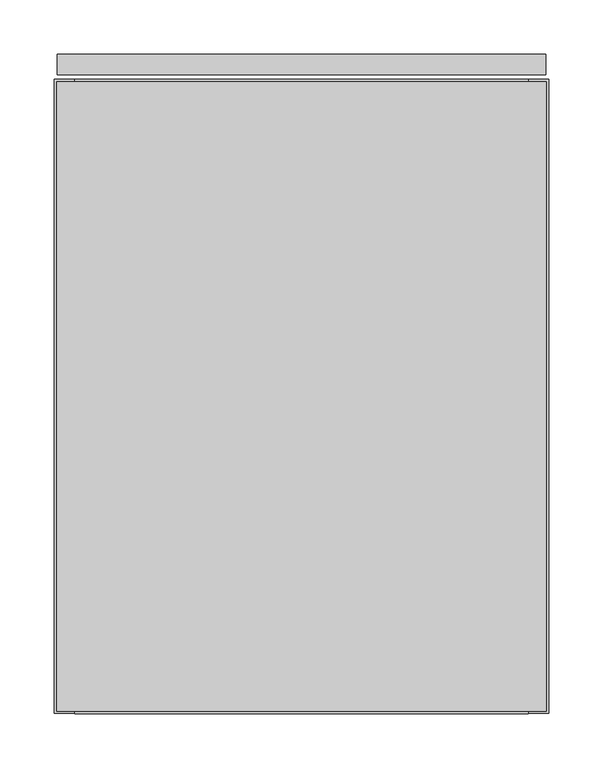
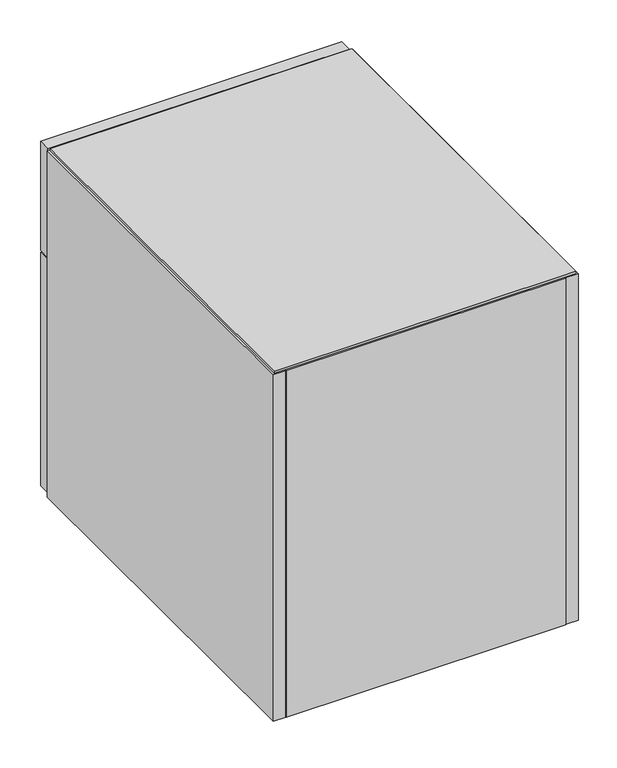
"""IFC4 building model written with IfcOpenShell, lengths in millimetres: furniture geometry, Geiger_GeigerOneCasegoods_LowStorage1Box1File : TFL 18Wx24Dx21.75H."""

from ifc_helpers import new_model, si_unit, point, frame, origin, place, context, project, spatial, polyline, circle_curve, ellipse_curve, trimmed, outline, extrude, source, transform, mapped, element, save
from ifc_brep_helpers import plane_surface, cylinder_surface, revolved_surface, advanced_brep


def furniture_d83d9811(model_context):
    return source(origin(), model_context, "Body", "SolidModel", [
        extrude(outline(polyline([(19.0, 19.5), (19.0, 586.4), (438.2, 586.4), (438.2, 19.5), (19.0, 19.5)])), frame((0.0, 0.0, 73.2), z_axis=(0.0, 0.0, 1.0), x_axis=(1.0, 0.0, 0.0)), (0.0, 0.0, 1.0), 19.5072),
        extrude(outline(polyline([(3.0, 590.4), (3.0, 609.6), (454.2, 609.6), (454.2, 590.4), (3.0, 590.4)])), frame((0.0, 0.0, 15.7), z_axis=(0.0, 0.0, 1.0), x_axis=(1.0, 0.0, 0.0)), (0.0, 0.0, 1.0), 370.0),
        extrude(outline(polyline([(3.0, 590.4), (3.0, 609.6), (454.2, 609.6), (454.2, 590.4), (3.0, 590.4)])), frame((0.0, 0.0, 388.7), z_axis=(0.0, 0.0, 1.0), x_axis=(1.0, 0.0, 0.0)), (0.0, 0.0, 1.0), 172.2),
        extrude(outline(polyline([(19.0, 19.5), (19.0, 566.9), (438.2, 566.9), (438.2, 19.5), (19.0, 19.5)])), frame((0.0, 0.0, 12.7), z_axis=(0.0, 0.0, 1.0), x_axis=(1.0, 0.0, 0.0)), (0.0, 0.0, 1.0), 19.5),
        extrude(outline(polyline([(454.66, 2.54), (2.54, 2.54), (2.54, 583.86), (454.66, 583.86), (454.66, 2.54)])), frame((0.0, 0.0, 561.7), z_axis=(0.0, 0.0, 1.0), x_axis=(1.0, 0.0, 0.0)), (0.0, 0.0, 1.0), 3.2766),
        extrude(outline(polyline([(19.0, 95.7), (19.0, 586.4), (438.2, 586.4), (438.2, 95.7), (19.0, 95.7)])), frame((0.0, 0.0, 542.2), z_axis=(0.0, 0.0, 1.0), x_axis=(1.0, 0.0, 0.0)), (0.0, 0.0, 1.0), 19.5),
        extrude(outline(polyline([(438.2, 19.5), (438.2, 0.0), (19.0, 0.0), (19.0, 19.5), (438.2, 19.5)])), frame((0.0, 0.0, 12.7), z_axis=(0.0, 0.0, 1.0), x_axis=(1.0, 0.0, 0.0)), (0.0, 0.0, 1.0), 549.0),
        extrude(outline(polyline([(19.0, 566.9), (19.0, 586.4), (438.2, 586.4), (438.2, 566.9), (19.0, 566.9)])), frame((0.0, 0.0, 12.7), z_axis=(0.0, 0.0, 1.0), x_axis=(1.0, 0.0, 0.0)), (0.0, 0.0, 1.0), 60.5),
        extrude(outline(polyline([(19.0, 586.4), (19.0, 0.5), (0.0, 0.5), (0.0, 586.4), (19.0, 586.4)])), frame((0.0, 0.0, 12.7), z_axis=(0.0, 0.0, 1.0), x_axis=(1.0, 0.0, 0.0)), (0.0, 0.0, 1.0), 549.0),
        extrude(outline(polyline([(457.2, 586.4), (457.2, 0.5), (438.2, 0.5), (438.2, 586.4), (457.2, 586.4)])), frame((0.0, 0.0, 12.7), z_axis=(0.0, 0.0, 1.0), x_axis=(1.0, 0.0, 0.0)), (0.0, 0.0, 1.0), 549.0),
        advanced_brep(
        [(94.0575663, 528.9165105, 0.0), (83.0, 528.9165105, 0.0), (71.9424337, 528.9165105, 0.0), (71.9424337, 528.9165105, 9.5), (94.0575663, 528.9165105, 9.5), (78.933545, 528.9165105, 9.5), (87.066455, 528.9165105, 9.5), (78.933545, 528.9165105, 12.7), (87.066455, 528.9165105, 12.7), (83.0, 528.9165105, 12.7)],
        [
            (0, 1),
            (1, 2),
            (2, 0, circle_curve(frame((83.0, 528.9165105, 0.0), z_axis=(0.0, 0.0, -1.0), x_axis=(-1.0, 0.0, 0.0)), 11.0575663)),
            (0, 2, circle_curve(frame((83.0, 528.9165105, 0.0), z_axis=(0.0, 0.0, -1.0), x_axis=(-1.0, 0.0, 0.0)), 11.0575663)),
            (2, 3, circle_curve(frame((71.9424337, 528.9165105, 4.75), z_axis=(0.0, 1.0, 0.0), x_axis=(-1.0, 0.0, 0.0)), 4.75)),
            (3, 4, circle_curve(frame((83.0, 528.9165105, 9.5), z_axis=(0.0, 0.0, -1.0), x_axis=(-1.0, 0.0, 0.0)), 11.0575663)),
            (4, 0, circle_curve(frame((94.0575663, 528.9165105, 4.75), z_axis=(0.0, 1.0, 0.0), x_axis=(1.0, 0.0, 0.0)), 4.75)),
            (4, 3, circle_curve(frame((83.0, 528.9165105, 9.5), z_axis=(0.0, 0.0, -1.0), x_axis=(-1.0, 0.0, 0.0)), 11.0575663)),
            (3, 5),
            (5, 6, circle_curve(frame((83.0, 528.9165105, 9.5), z_axis=(0.0, 0.0, -1.0), x_axis=(-1.0, 0.0, 0.0)), 4.066455)),
            (6, 4),
            (6, 5, circle_curve(frame((83.0, 528.9165105, 9.5), z_axis=(0.0, 0.0, -1.0), x_axis=(-1.0, 0.0, 0.0)), 4.066455)),
            (5, 7),
            (7, 8, circle_curve(frame((83.0, 528.9165105, 12.7), z_axis=(0.0, 0.0, -1.0), x_axis=(-1.0, 0.0, 0.0)), 4.066455)),
            (8, 6),
            (8, 7, circle_curve(frame((83.0, 528.9165105, 12.7), z_axis=(0.0, 0.0, -1.0), x_axis=(-1.0, 0.0, 0.0)), 4.066455)),
            (7, 9),
            (9, 8),
        ],
        [
            plane_surface(frame((83.0, 528.9165105, 0.0), z_axis=(0.0, 0.0, -1.0), x_axis=(-1.0, 0.0, 0.0))),
            revolved_surface(trimmed(ellipse_curve(frame((71.9424337, 528.9165105, 4.75), z_axis=(0.0, 1.0, 0.0), x_axis=(-1.0, 0.0, 0.0)), 4.75, 4.75), [point((71.9424337, 528.9165105, 0.0))], [point((71.9424337, 528.9165105, 9.5))], True, "CARTESIAN"), (83.0, 528.9165105, 0.0), (0.0, 0.0, 1.0)),
            plane_surface(frame((83.0, 528.9165105, 9.5), z_axis=(0.0, 0.0, 1.0), x_axis=(-1.0, 0.0, 0.0))),
            cylinder_surface(frame((83.0, 528.9165105, 0.0), z_axis=(0.0, 0.0, 1.0), x_axis=(-1.0, 0.0, 0.0)), 4.066455),
            plane_surface(frame((83.0, 528.9165105, 12.7), z_axis=(0.0, 0.0, 1.0), x_axis=(-1.0, 0.0, 0.0))),
        ],
        [
            (0, [[1, 2, 3]]),
            (0, [[-1, 4, -2]]),
            (1, [[5, 6, 7, -3]]),
            (1, [[-7, 8, -5, -4]]),
            (2, [[9, 10, 11, -6]]),
            (2, [[-11, 12, -9, -8]]),
            (3, [[13, 14, 15, -10]]),
            (3, [[-15, 16, -13, -12]]),
            (4, [[17, 18, -14]]),
            (4, [[-18, -17, -16]]),
        ],
    ),
        advanced_brep(
        [(94.0575663, 127.0, 0.0), (83.0, 127.0, 0.0), (71.9424337, 127.0, 0.0), (71.9424337, 127.0, 9.5), (94.0575663, 127.0, 9.5), (78.933545, 127.0, 9.5), (87.066455, 127.0, 9.5), (78.933545, 127.0, 12.7), (87.066455, 127.0, 12.7), (83.0, 127.0, 12.7)],
        [
            (0, 1),
            (1, 2),
            (2, 0, circle_curve(frame((83.0, 127.0, 0.0), z_axis=(0.0, 0.0, -1.0), x_axis=(-1.0, 0.0, 0.0)), 11.0575663)),
            (0, 2, circle_curve(frame((83.0, 127.0, 0.0), z_axis=(0.0, 0.0, -1.0), x_axis=(-1.0, 0.0, 0.0)), 11.0575663)),
            (2, 3, circle_curve(frame((71.9424337, 127.0, 4.75), z_axis=(0.0, 1.0, 0.0), x_axis=(-1.0, 0.0, 0.0)), 4.75)),
            (3, 4, circle_curve(frame((83.0, 127.0, 9.5), z_axis=(0.0, 0.0, -1.0), x_axis=(-1.0, 0.0, 0.0)), 11.0575663)),
            (4, 0, circle_curve(frame((94.0575663, 127.0, 4.75), z_axis=(0.0, 1.0, 0.0), x_axis=(1.0, 0.0, 0.0)), 4.75)),
            (4, 3, circle_curve(frame((83.0, 127.0, 9.5), z_axis=(0.0, 0.0, -1.0), x_axis=(-1.0, 0.0, 0.0)), 11.0575663)),
            (3, 5),
            (5, 6, circle_curve(frame((83.0, 127.0, 9.5), z_axis=(0.0, 0.0, -1.0), x_axis=(-1.0, 0.0, 0.0)), 4.066455)),
            (6, 4),
            (6, 5, circle_curve(frame((83.0, 127.0, 9.5), z_axis=(0.0, 0.0, -1.0), x_axis=(-1.0, 0.0, 0.0)), 4.066455)),
            (5, 7),
            (7, 8, circle_curve(frame((83.0, 127.0, 12.7), z_axis=(0.0, 0.0, -1.0), x_axis=(-1.0, 0.0, 0.0)), 4.066455)),
            (8, 6),
            (8, 7, circle_curve(frame((83.0, 127.0, 12.7), z_axis=(0.0, 0.0, -1.0), x_axis=(-1.0, 0.0, 0.0)), 4.066455)),
            (7, 9),
            (9, 8),
        ],
        [
            plane_surface(frame((83.0, 127.0, 0.0), z_axis=(0.0, 0.0, -1.0), x_axis=(-1.0, 0.0, 0.0))),
            revolved_surface(trimmed(ellipse_curve(frame((71.9424337, 127.0, 4.75), z_axis=(0.0, 1.0, 0.0), x_axis=(-1.0, 0.0, 0.0)), 4.75, 4.75), [point((71.9424337, 127.0, 0.0))], [point((71.9424337, 127.0, 9.5))], True, "CARTESIAN"), (83.0, 127.0, 0.0), (0.0, 0.0, 1.0)),
            plane_surface(frame((83.0, 127.0, 9.5), z_axis=(0.0, 0.0, 1.0), x_axis=(-1.0, 0.0, 0.0))),
            cylinder_surface(frame((83.0, 127.0, 0.0), z_axis=(0.0, 0.0, 1.0), x_axis=(-1.0, 0.0, 0.0)), 4.066455),
            plane_surface(frame((83.0, 127.0, 12.7), z_axis=(0.0, 0.0, 1.0), x_axis=(-1.0, 0.0, 0.0))),
        ],
        [
            (0, [[1, 2, 3]]),
            (0, [[-1, 4, -2]]),
            (1, [[5, 6, 7, -3]]),
            (1, [[-7, 8, -5, -4]]),
            (2, [[9, 10, 11, -6]]),
            (2, [[-11, 12, -9, -8]]),
            (3, [[13, 14, 15, -10]]),
            (3, [[-15, 16, -13, -12]]),
            (4, [[17, 18, -14]]),
            (4, [[-18, -17, -16]]),
        ],
    ),
        advanced_brep(
        [(374.2, 528.9165105, 0.0), (363.1424337, 528.9165105, 0.0), (385.2575663, 528.9165105, 0.0), (363.1424337, 528.9165105, 9.5), (385.2575663, 528.9165105, 9.5), (370.133545, 528.9165105, 9.5), (378.266455, 528.9165105, 9.5), (370.133545, 528.9165105, 12.7), (378.266455, 528.9165105, 12.7), (374.2, 528.9165105, 12.7)],
        [
            (0, 1),
            (1, 2, circle_curve(frame((374.2, 528.9165105, 0.0), z_axis=(0.0, 0.0, -1.0), x_axis=(1.0, 0.0, 0.0)), 11.0575663)),
            (2, 0),
            (2, 1, circle_curve(frame((374.2, 528.9165105, 0.0), z_axis=(0.0, 0.0, -1.0), x_axis=(1.0, 0.0, 0.0)), 11.0575663)),
            (1, 3, circle_curve(frame((363.1424337, 528.9165105, 4.75), z_axis=(0.0, 1.0, 0.0), x_axis=(1.0, 0.0, 0.0)), 4.75)),
            (3, 4, circle_curve(frame((374.2, 528.9165105, 9.5), z_axis=(0.0, 0.0, -1.0), x_axis=(1.0, 0.0, 0.0)), 11.0575663)),
            (4, 2, circle_curve(frame((385.2575663, 528.9165105, 4.75), z_axis=(0.0, 1.0, 0.0), x_axis=(-1.0, 0.0, 0.0)), 4.75)),
            (4, 3, circle_curve(frame((374.2, 528.9165105, 9.5), z_axis=(0.0, 0.0, -1.0), x_axis=(1.0, 0.0, 0.0)), 11.0575663)),
            (3, 5),
            (5, 6, circle_curve(frame((374.2, 528.9165105, 9.5), z_axis=(0.0, 0.0, -1.0), x_axis=(1.0, 0.0, 0.0)), 4.066455)),
            (6, 4),
            (6, 5, circle_curve(frame((374.2, 528.9165105, 9.5), z_axis=(0.0, 0.0, -1.0), x_axis=(1.0, 0.0, 0.0)), 4.066455)),
            (5, 7),
            (7, 8, circle_curve(frame((374.2, 528.9165105, 12.7), z_axis=(0.0, 0.0, -1.0), x_axis=(1.0, 0.0, 0.0)), 4.066455)),
            (8, 6),
            (8, 7, circle_curve(frame((374.2, 528.9165105, 12.7), z_axis=(0.0, 0.0, -1.0), x_axis=(1.0, 0.0, 0.0)), 4.066455)),
            (7, 9),
            (9, 8),
        ],
        [
            plane_surface(frame((374.2, 528.9165105, 0.0), z_axis=(0.0, 0.0, -1.0), x_axis=(1.0, 0.0, 0.0))),
            revolved_surface(trimmed(ellipse_curve(frame((385.2575663, 528.9165105, 4.75), z_axis=(0.0, 1.0, 0.0), x_axis=(-1.0, 0.0, 0.0)), 4.75, 4.75), [point((385.2575663, 528.9165105, 9.5))], [point((385.2575663, 528.9165105, 0.0))], True, "CARTESIAN"), (374.2, 528.9165105, 0.0), (0.0, 0.0, -1.0)),
            plane_surface(frame((374.2, 528.9165105, 9.5), z_axis=(0.0, 0.0, 1.0), x_axis=(1.0, 0.0, 0.0))),
            cylinder_surface(frame((374.2, 528.9165105, 0.0), z_axis=(0.0, 0.0, -1.0), x_axis=(1.0, 0.0, 0.0)), 4.066455),
            plane_surface(frame((374.2, 528.9165105, 12.7), z_axis=(0.0, 0.0, 1.0), x_axis=(1.0, 0.0, 0.0))),
        ],
        [
            (0, [[1, 2, 3]]),
            (0, [[4, -1, -3]]),
            (1, [[5, 6, 7, -2]]),
            (1, [[-7, 8, -5, -4]]),
            (2, [[9, 10, 11, -6]]),
            (2, [[-11, 12, -9, -8]]),
            (3, [[13, 14, 15, -10]]),
            (3, [[-15, 16, -13, -12]]),
            (4, [[17, 18, -14]]),
            (4, [[-18, -17, -16]]),
        ],
    ),
        advanced_brep(
        [(374.2, 127.0, 0.0), (363.1424337, 127.0, 0.0), (385.2575663, 127.0, 0.0), (363.1424337, 127.0, 9.5), (385.2575663, 127.0, 9.5), (370.133545, 127.0, 9.5), (378.266455, 127.0, 9.5), (370.133545, 127.0, 12.7), (378.266455, 127.0, 12.7), (374.2, 127.0, 12.7)],
        [
            (0, 1),
            (1, 2, circle_curve(frame((374.2, 127.0, 0.0), z_axis=(0.0, 0.0, -1.0), x_axis=(1.0, 0.0, 0.0)), 11.0575663)),
            (2, 0),
            (2, 1, circle_curve(frame((374.2, 127.0, 0.0), z_axis=(0.0, 0.0, -1.0), x_axis=(1.0, 0.0, 0.0)), 11.0575663)),
            (1, 3, circle_curve(frame((363.1424337, 127.0, 4.75), z_axis=(0.0, 1.0, 0.0), x_axis=(1.0, 0.0, 0.0)), 4.75)),
            (3, 4, circle_curve(frame((374.2, 127.0, 9.5), z_axis=(0.0, 0.0, -1.0), x_axis=(1.0, 0.0, 0.0)), 11.0575663)),
            (4, 2, circle_curve(frame((385.2575663, 127.0, 4.75), z_axis=(0.0, 1.0, 0.0), x_axis=(-1.0, 0.0, 0.0)), 4.75)),
            (4, 3, circle_curve(frame((374.2, 127.0, 9.5), z_axis=(0.0, 0.0, -1.0), x_axis=(1.0, 0.0, 0.0)), 11.0575663)),
            (3, 5),
            (5, 6, circle_curve(frame((374.2, 127.0, 9.5), z_axis=(0.0, 0.0, -1.0), x_axis=(1.0, 0.0, 0.0)), 4.066455)),
            (6, 4),
            (6, 5, circle_curve(frame((374.2, 127.0, 9.5), z_axis=(0.0, 0.0, -1.0), x_axis=(1.0, 0.0, 0.0)), 4.066455)),
            (5, 7),
            (7, 8, circle_curve(frame((374.2, 127.0, 12.7), z_axis=(0.0, 0.0, -1.0), x_axis=(1.0, 0.0, 0.0)), 4.066455)),
            (8, 6),
            (8, 7, circle_curve(frame((374.2, 127.0, 12.7), z_axis=(0.0, 0.0, -1.0), x_axis=(1.0, 0.0, 0.0)), 4.066455)),
            (7, 9),
            (9, 8),
        ],
        [
            plane_surface(frame((374.2, 127.0, 0.0), z_axis=(0.0, 0.0, -1.0), x_axis=(1.0, 0.0, 0.0))),
            revolved_surface(trimmed(ellipse_curve(frame((385.2575663, 127.0, 4.75), z_axis=(0.0, 1.0, 0.0), x_axis=(-1.0, 0.0, 0.0)), 4.75, 4.75), [point((385.2575663, 127.0, 9.5))], [point((385.2575663, 127.0, 0.0))], True, "CARTESIAN"), (374.2, 127.0, 0.0), (0.0, 0.0, -1.0)),
            plane_surface(frame((374.2, 127.0, 9.5), z_axis=(0.0, 0.0, 1.0), x_axis=(1.0, 0.0, 0.0))),
            cylinder_surface(frame((374.2, 127.0, 0.0), z_axis=(0.0, 0.0, -1.0), x_axis=(1.0, 0.0, 0.0)), 4.066455),
            plane_surface(frame((374.2, 127.0, 12.7), z_axis=(0.0, 0.0, 1.0), x_axis=(1.0, 0.0, 0.0))),
        ],
        [
            (0, [[1, 2, 3]]),
            (0, [[4, -1, -3]]),
            (1, [[5, 6, 7, -2]]),
            (1, [[-7, 8, -5, -4]]),
            (2, [[9, 10, 11, -6]]),
            (2, [[-11, 12, -9, -8]]),
            (3, [[13, 14, 15, -10]]),
            (3, [[-15, 16, -13, -12]]),
            (4, [[17, 18, -14]]),
            (4, [[-18, -17, -16]]),
        ],
    ),
    ])


if __name__ == "__main__":
    model = new_model("IFC4")
    model_context = context("Model", 3, world=origin())
    ifc_project = project(units=[si_unit("LENGTHUNIT", "METRE", prefix="MILLI")], contexts=[model_context])
    site = spatial("IfcSite", under=ifc_project)
    building = spatial("IfcBuilding", under=site)
    placement = place(None, origin())
    furniture_shape = furniture_d83d9811(model_context)
    element("IfcFurniture", 1, ObjectType="Geiger_GeigerOneCasegoods_LowStorage1Box1File : TFL 18Wx24Dx21.75H", at=placement, inside=building, context=model_context, shape_type="MappedRepresentation", body=[
        mapped(furniture_shape, transform((0.0, 0.0, 0.0), x_axis=(1.0, 0.0, 0.0), y_axis=(0.0, 1.0, 0.0), z_axis=(0.0, 0.0, 1.0))),
    ])
    save(model, "model.ifc")
